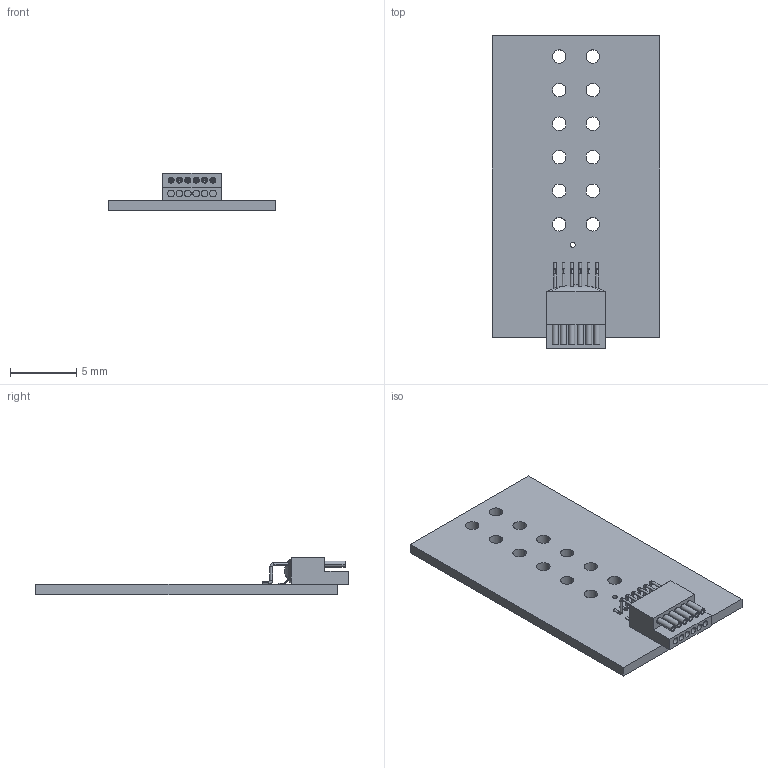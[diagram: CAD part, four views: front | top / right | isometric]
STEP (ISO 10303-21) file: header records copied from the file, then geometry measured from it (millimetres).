
FILE_DESCRIPTION (( 'STEP AP214' ), '1' );
FILE_NAME ('RHD_SPI_Cable_Adapter.STEP', '2022-03-21T18:56:02', ( '' ), ( '' ), 'SwSTEP 2.0', 'SolidWorks 2022', '' );
FILE_SCHEMA (( 'AUTOMOTIVE_DESIGN' ));
Length unit declared in the file: inch
Products named in the file (3): RHD_SPI_Cable_Adapter_PCB; A79623-001; RHD_SPI_Cable_Adapter
Assembly tree (2 placements, depth 2):
  RHD_SPI_Cable_Adapter
    RHD_SPI_Cable_Adapter_PCB
    A79623-001
Bounding box: 12.7 x 23.69 x 2.82 mm (x, y, z)
Volume: 248.8 mm3; surface area: 825.3 mm2
Topology: 2 solids, 8 shells, 288 faces, 692 edges, 439 vertices
Faces by surface type: cylinder 168, plane 80, bspline 28, cone 12
Entity records: 11289 total; most frequent: CARTESIAN_POINT 2807, DIRECTION 1540, ORIENTED_EDGE 1352, EDGE_CURVE 676, AXIS2_PLACEMENT_3D 637, VERTEX_POINT 439, CIRCLE 372, EDGE_LOOP 367
